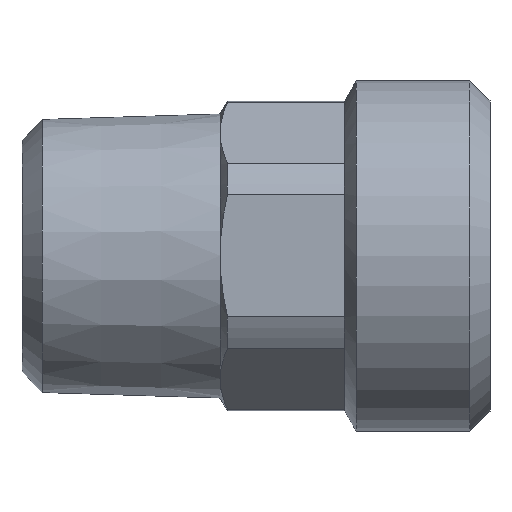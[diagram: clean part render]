
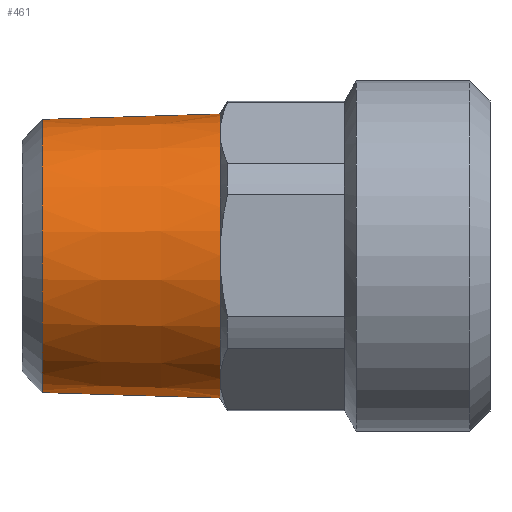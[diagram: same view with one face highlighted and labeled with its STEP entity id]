
A CAD part, top view. The second image highlights one B-rep face of the part: STEP entity #461.
In plain terms, the highlighted conical face has half-angle 1.78 degrees and reference radius 8.314 mm.
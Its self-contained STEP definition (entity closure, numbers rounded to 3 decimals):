
#49=CARTESIAN_POINT('',(11.856,8.498,0.0));
#50=VERTEX_POINT('',#49);
#59=CARTESIAN_POINT('',(11.856,-8.498,0.));
#60=VERTEX_POINT('',#59);
#61=CARTESIAN_POINT('',(11.856,0.0,0.0));
#62=DIRECTION('',(1.0,0.0,0.0));
#63=DIRECTION('',(0.0,1.0,0.0));
#64=AXIS2_PLACEMENT_3D('',#61,#62,#63);
#65=CIRCLE('',#64,8.498);
#66=EDGE_CURVE('',#50,#60,#65,.T.);
#430=CARTESIAN_POINT('',(5.928,0.0,0.0));
#431=DIRECTION('',(1.0,0.0,0.0));
#432=DIRECTION('',(0.0,1.0,0.0));
#433=AXIS2_PLACEMENT_3D('',#430,#431,#432);
#434=CONICAL_SURFACE('',#433,8.314,1.78);
#435=CARTESIAN_POINT('',(1.199,8.167,0.));
#436=VERTEX_POINT('',#435);
#437=CARTESIAN_POINT('',(1.199,8.167,0.));
#438=DIRECTION('',(1.,0.031,0.));
#439=VECTOR('',#438,10.662);
#440=LINE('',#437,#439);
#441=EDGE_CURVE('',#436,#50,#440,.T.);
#442=ORIENTED_EDGE('',*,*,#441,.F.);
#443=CARTESIAN_POINT('',(1.199,-8.167,0.));
#444=VERTEX_POINT('',#443);
#445=CARTESIAN_POINT('',(1.199,0.0,0.));
#446=DIRECTION('',(-1.0,0.0,0.0));
#447=DIRECTION('',(0.0,-1.0,0.0));
#448=AXIS2_PLACEMENT_3D('',#445,#446,#447);
#449=CIRCLE('',#448,8.167);
#450=EDGE_CURVE('',#444,#436,#449,.T.);
#451=ORIENTED_EDGE('',*,*,#450,.F.);
#452=CARTESIAN_POINT('',(11.856,-8.498,0.));
#453=DIRECTION('',(-1.,0.031,0.));
#454=VECTOR('',#453,10.662);
#455=LINE('',#452,#454);
#456=EDGE_CURVE('',#60,#444,#455,.T.);
#457=ORIENTED_EDGE('',*,*,#456,.F.);
#458=ORIENTED_EDGE('',*,*,#66,.F.);
#459=EDGE_LOOP('',(#442,#451,#457,#458));
#460=FACE_OUTER_BOUND('',#459,.T.);
#461=ADVANCED_FACE('',(#460),#434,.T.);
